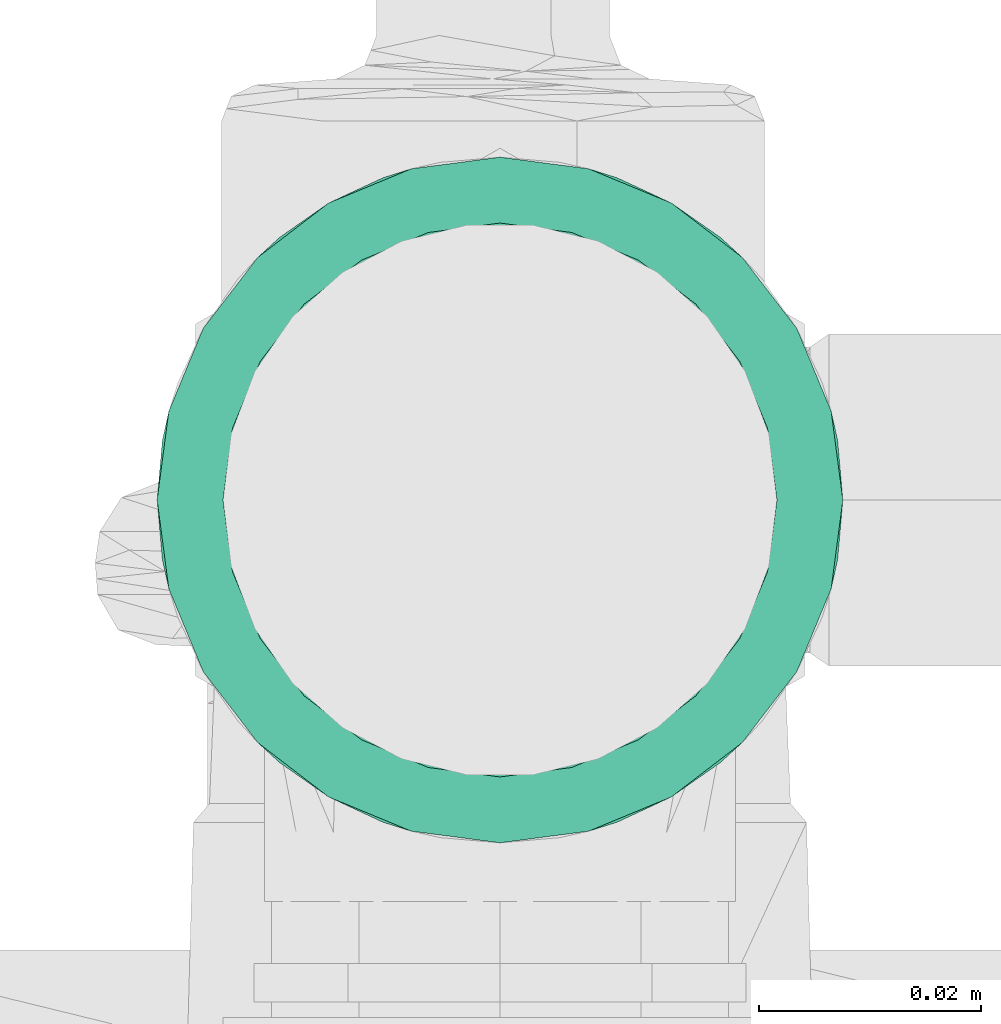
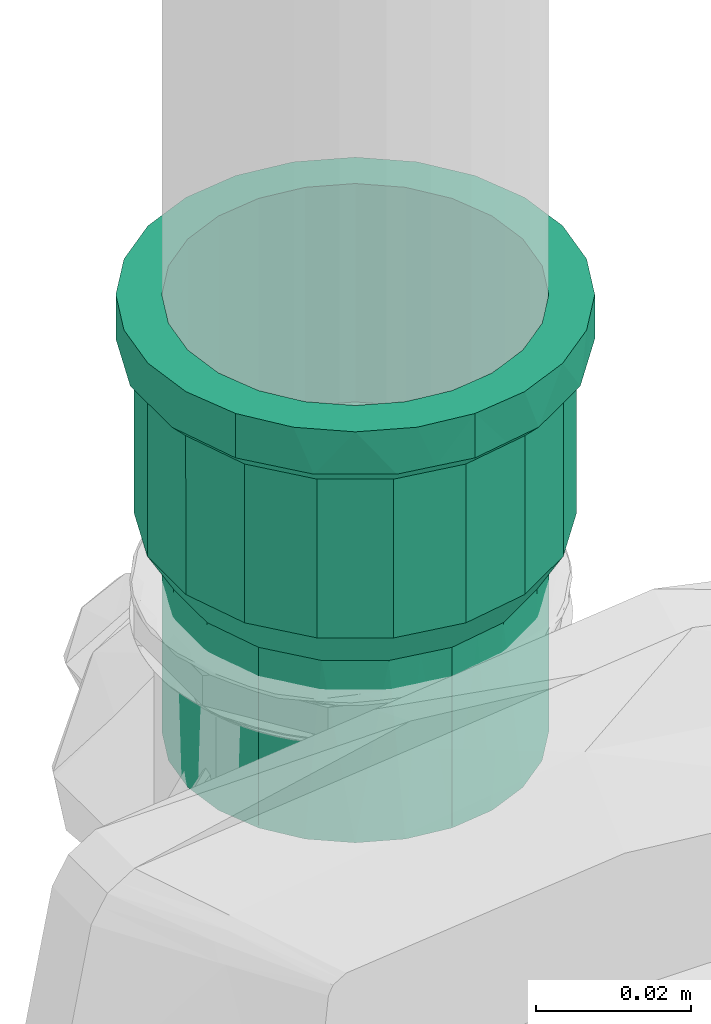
# One storey, part 153 of 589: 1 flow fitting.
"""IFC2X3 building model written with IfcOpenShell, lengths in millimetres."""

from ifc_helpers import new_model, entity, si_unit, converted_unit, derived_unit, direction, frame, origin, place, context, subcontext, project, spatial, faceted_brep, source, transform, mapped, material, type_object, type_shapes, element, save


model = new_model("IFC2X3")

# Units and contexts
model_context = context("Model", 3, precision=0.01, world=origin(), true_north=direction((6.123031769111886e-17, 1.0)))
body_context = subcontext(model_context, "Body", "Model", "MODEL_VIEW")
ifc_project = project(units=[si_unit("LENGTHUNIT", "METRE", prefix="MILLI"), si_unit("AREAUNIT", "SQUARE_METRE"), si_unit("VOLUMEUNIT", "CUBIC_METRE"), converted_unit("PLANEANGLEUNIT", "DEGREE", entity("IfcRatioMeasure", 0.017453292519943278), si_unit("PLANEANGLEUNIT", "RADIAN"), dimensions=[0, 0, 0, 0, 0, 0, 0]), si_unit("MASSUNIT", "GRAM", prefix="KILO"), derived_unit("MASSDENSITYUNIT", [(si_unit("MASSUNIT", "GRAM", prefix="KILO"), 1), (si_unit("LENGTHUNIT", "METRE"), -3)]), derived_unit("IONCONCENTRATIONUNIT", [(si_unit("MASSUNIT", "GRAM", prefix="KILO"), 1), (si_unit("LENGTHUNIT", "METRE"), -3)]), derived_unit("MOMENTOFINERTIAUNIT", [(si_unit("LENGTHUNIT", "METRE"), 4)]), si_unit("TIMEUNIT", "SECOND"), si_unit("FREQUENCYUNIT", "HERTZ"), si_unit("THERMODYNAMICTEMPERATUREUNIT", "DEGREE_CELSIUS"), derived_unit("THERMALTRANSMITTANCEUNIT", [(si_unit("MASSUNIT", "GRAM", prefix="KILO"), 1), (si_unit("THERMODYNAMICTEMPERATUREUNIT", "KELVIN"), -1), (si_unit("TIMEUNIT", "SECOND"), -3)]), derived_unit("THERMALCONDUCTANCEUNIT", [(si_unit("MASSUNIT", "GRAM", prefix="KILO"), 1), (si_unit("THERMODYNAMICTEMPERATUREUNIT", "KELVIN"), -1), (si_unit("TIMEUNIT", "SECOND"), -3), (si_unit("LENGTHUNIT", "METRE"), 1)]), derived_unit("VOLUMETRICFLOWRATEUNIT", [(si_unit("LENGTHUNIT", "METRE"), 3), (si_unit("TIMEUNIT", "SECOND"), -1)]), derived_unit("MASSFLOWRATEUNIT", [(si_unit("MASSUNIT", "GRAM", prefix="KILO"), 1), (si_unit("TIMEUNIT", "SECOND"), -1)]), derived_unit("ROTATIONALFREQUENCYUNIT", [(si_unit("TIMEUNIT", "SECOND"), -1)]), si_unit("ELECTRICCURRENTUNIT", "AMPERE"), si_unit("ELECTRICVOLTAGEUNIT", "VOLT"), si_unit("POWERUNIT", "WATT"), si_unit("FORCEUNIT", "NEWTON", prefix="KILO"), si_unit("ILLUMINANCEUNIT", "LUX"), si_unit("LUMINOUSFLUXUNIT", "LUMEN"), si_unit("LUMINOUSINTENSITYUNIT", "CANDELA"), derived_unit("USERDEFINED", [(si_unit("MASSUNIT", "GRAM", prefix="KILO"), -1), (si_unit("LENGTHUNIT", "METRE"), -2), (si_unit("TIMEUNIT", "SECOND"), 3), (si_unit("LUMINOUSFLUXUNIT", "LUMEN"), 1)]), derived_unit("USERDEFINED", [(si_unit("MASSUNIT", "GRAM", prefix="KILO"), 1), (si_unit("TIMEUNIT", "SECOND"), -3), (si_unit("LENGTHUNIT", "METRE"), 3), (si_unit("ELECTRICCURRENTUNIT", "AMPERE"), -2)]), derived_unit("SOUNDPOWERUNIT", [(si_unit("MASSUNIT", "GRAM", prefix="KILO"), 1), (si_unit("TIMEUNIT", "SECOND"), -3), (si_unit("LENGTHUNIT", "METRE"), 2)]), derived_unit("SOUNDPRESSUREUNIT", [(si_unit("MASSUNIT", "GRAM", prefix="KILO"), 1), (si_unit("LENGTHUNIT", "METRE"), -1), (si_unit("TIMEUNIT", "SECOND"), -2)]), derived_unit("LINEARVELOCITYUNIT", [(si_unit("LENGTHUNIT", "METRE"), 1), (si_unit("TIMEUNIT", "SECOND"), -1)]), si_unit("PRESSUREUNIT", "PASCAL"), derived_unit("USERDEFINED", [(si_unit("MASSUNIT", "GRAM", prefix="KILO"), 1), (si_unit("LENGTHUNIT", "METRE"), -2), (si_unit("TIMEUNIT", "SECOND"), -2)]), derived_unit("LINEARFORCEUNIT", [(si_unit("MASSUNIT", "GRAM", prefix="KILO"), 1), (si_unit("TIMEUNIT", "SECOND"), -2)]), derived_unit("PLANARFORCEUNIT", [(si_unit("MASSUNIT", "GRAM", prefix="KILO"), 1), (si_unit("LENGTHUNIT", "METRE"), -1), (si_unit("TIMEUNIT", "SECOND"), -2)]), derived_unit("SPECIFICHEATCAPACITYUNIT", [(si_unit("THERMODYNAMICTEMPERATUREUNIT", "KELVIN"), -1), (si_unit("LENGTHUNIT", "METRE"), 2), (si_unit("TIMEUNIT", "SECOND"), -2)]), derived_unit("HEATINGVALUEUNIT", [(si_unit("LENGTHUNIT", "METRE"), 2), (si_unit("TIMEUNIT", "SECOND"), -2)]), derived_unit("VAPORPERMEABILITYUNIT", [(si_unit("LENGTHUNIT", "METRE"), -1), (si_unit("TIMEUNIT", "SECOND"), 1)]), derived_unit("DYNAMICVISCOSITYUNIT", [(si_unit("MASSUNIT", "GRAM", prefix="KILO"), 1), (si_unit("TIMEUNIT", "SECOND"), -1), (si_unit("LENGTHUNIT", "METRE"), -1)]), derived_unit("THERMALEXPANSIONCOEFFICIENTUNIT", [(si_unit("THERMODYNAMICTEMPERATUREUNIT", "KELVIN"), -1)]), derived_unit("MODULUSOFELASTICITYUNIT", [(si_unit("MASSUNIT", "GRAM", prefix="KILO"), 1), (si_unit("LENGTHUNIT", "METRE"), -1), (si_unit("TIMEUNIT", "SECOND"), -2)]), derived_unit("ISOTHERMALMOISTURECAPACITYUNIT", [(si_unit("LENGTHUNIT", "METRE"), 3), (si_unit("MASSUNIT", "GRAM", prefix="KILO"), -1)]), derived_unit("MOISTUREDIFFUSIVITYUNIT", [(si_unit("TIMEUNIT", "SECOND"), -1), (si_unit("LENGTHUNIT", "METRE"), 2)])], contexts=[model_context])

# Site, building, storey
site_placement = place(None, origin())
site = spatial("IfcSite", under=ifc_project, at=site_placement, Name="Default", CompositionType="ELEMENT")
building_placement = place(site_placement, origin())
building = spatial("IfcBuilding", under=site, at=building_placement, CompositionType="ELEMENT")
storey_placement = place(building_placement, frame((0.0, 0.0, 100.0)))
storey = spatial("IfcBuildingStorey", under=building, at=storey_placement, Name="TÉRREO", CompositionType="ELEMENT", Elevation=100.0)

# Flow fitting
ifc_material = material(Name="PVC Marrom")
pipe_fitting_type = type_object("IfcPipeFittingType", Name="PVC Marrom Soldável_Adaptador Curto com Bolsa e Rosca Aninhado_Rodrigo MEP:Adaptador", PredefinedType="NOTDEFINED", material=ifc_material)
shared_shape = source(origin(), body_context, "Body", "Brep", [
    faceted_brep([(0.0, 12.499999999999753, -21.65063509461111), (0.0, 21.884954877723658, -21.88495487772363), (0.0, 15.475000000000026, -26.803486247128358), (0.0, 17.677669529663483, -17.6776695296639), (0.0, 6.470476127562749, -24.14814565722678), (0.0, 26.803486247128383, -15.474999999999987), (0.0, 21.650635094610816, -12.500000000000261), (0.0, 24.148145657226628, -6.470476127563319), (0.0, 29.895404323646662, -8.01044944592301), (0.0, 25.0, 0.0), (0.0, 30.95, 0.0), (0.0, 24.14814565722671, 6.470476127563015), (0.0, 29.895404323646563, 8.010449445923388), (0.0, 21.65063509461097, 12.499999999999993), (0.0, 26.80348624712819, 15.475000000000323), (0.0, 17.6776695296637, 17.677669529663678), (0.0, 21.884954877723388, 21.884954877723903), (0.0, 12.500000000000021, 21.65063509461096), (0.0, 15.474999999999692, 26.803486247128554), (0.0, 6.4704761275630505, 24.1481456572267), (0.0, 8.010449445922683, 29.89540432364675), (0.0, 0.0, 25.0), (0.0, 0.0, 30.95), (0.0, -6.4704761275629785, 24.14814565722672), (0.0, -8.010449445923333, 29.895404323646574), (0.0, -12.49999999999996, 21.650635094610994), (0.0, -15.475000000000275, 26.803486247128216), (0.0, -17.677669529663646, 17.67766952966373), (0.0, -21.884954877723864, 21.884954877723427), (0.0, -21.65063509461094, 12.500000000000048), (0.0, -26.803486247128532, 15.474999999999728), (0.0, -29.89540432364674, 8.010449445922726), (0.0, -24.14814565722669, 6.4704761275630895), (0.0, -30.95, 0.0), (0.0, -25.0, 0.0), (0.0, -29.895404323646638, -8.010449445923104), (0.0, -24.148145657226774, -6.470476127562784), (0.0, -26.803486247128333, -15.475000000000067), (0.0, -21.6506350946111, -12.499999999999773), (0.0, -21.884954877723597, -21.884954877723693), (0.0, -17.677669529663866, -17.67766952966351), (0.0, -15.474999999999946, -26.803486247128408), (0.0, -12.500000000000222, -21.650635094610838), (0.0, -8.010449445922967, -29.895404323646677), (0.0, -6.470476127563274, -24.148145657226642), (0.0, 0.0, -30.95), (0.0, 0.0, -25.0), (0.0, 8.010449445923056, -29.895404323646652), (7.0, -30.016595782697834, 5.29316701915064), (7.0, -29.88065133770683, 6.064083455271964), (7.0, -29.083191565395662, 10.586334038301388), (7.0, -23.70796650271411, 19.895598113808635), (7.0, -19.590362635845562, 23.350189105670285), (7.0, -26.395579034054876, 15.24096607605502), (7.0, -5.3710129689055, 30.480398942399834), (7.0, -10.421885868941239, 28.6425895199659), (7.0, -30.95, 0.0), (7.0, -15.472758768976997, 26.804780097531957), (7.0, 10.42907040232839, 28.639974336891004), (7.0, 15.479482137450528, 26.80089798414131), (7.0, 5.37865866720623, 30.479050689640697), (7.0, 19.596219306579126, 23.345274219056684), (7.0, 23.712956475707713, 19.889650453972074), (7.0, 29.08584618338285, 10.57903832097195), (7.0, 30.95, 0.0), (7.0, 26.39940132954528, 15.234344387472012), (7.0, 0.0038228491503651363, 30.47972481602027), (7.0, 29.08584618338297, -10.579038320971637), (7.0, 23.71295647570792, -19.88965045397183), (7.0, 19.596219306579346, -23.3452742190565), (7.0, 26.39940132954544, -15.234344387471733), (7.0, 5.378658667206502, -30.47905068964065), (7.0, 10.429070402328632, -28.639974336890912), (7.0, 15.47948213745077, -26.800897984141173), (7.0, -30.0165957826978, -5.2931670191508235), (7.0, -10.421885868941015, -28.642589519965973), (7.0, -15.472758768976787, -26.804780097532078), (7.0, -5.3710129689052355, -30.480398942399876), (7.0, -19.590362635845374, -23.350189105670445), (7.0, -23.707966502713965, -19.895598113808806), (7.0, -29.083191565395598, -10.58633403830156), (7.0, -29.88065131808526, -6.064083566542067), (7.0, -26.395579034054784, -15.240966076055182), (7.0, 0.003822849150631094, -30.479724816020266), (9.400000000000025, -26.87493630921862, 9.782525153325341), (9.400000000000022, -27.737468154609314, 4.891262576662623), (34.4499999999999, -26.875116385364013, 9.782030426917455), (9.40000000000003, -18.102887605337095, 21.577234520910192), (34.4499999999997, -14.299296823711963, 24.768732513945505), (9.400000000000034, -14.297928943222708, 24.769522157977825), (9.400000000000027, -24.391391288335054, 14.083736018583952), (34.44999999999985, -24.391819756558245, 14.083085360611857), (34.4499999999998, -21.908523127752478, 18.384140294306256), (34.44999999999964, -4.965271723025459, 28.165689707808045), (9.400000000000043, -4.963197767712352, 28.16605524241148), (9.400000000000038, -9.63056335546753, 26.467788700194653), (9.400000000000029, -21.907846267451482, 18.384946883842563), (9.40000000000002, -28.600000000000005, 0.0), (34.44999999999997, -27.796398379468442, 4.557325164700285), (34.44999999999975, -18.103909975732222, 21.57643640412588), (34.44999999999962, 4.967670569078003, 28.165266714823), (9.400000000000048, 0.003532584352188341, 28.165432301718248), (34.44999999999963, 0.0011994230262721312, 28.165478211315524), (34.44999999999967, -9.632284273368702, 26.46721111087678), (9.400000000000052, 4.970262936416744, 28.164809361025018), (9.400000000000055, 9.63720237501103, 26.465372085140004), (34.449999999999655, 14.301406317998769, 24.76751455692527), (9.40000000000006, 14.304141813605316, 24.765934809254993), (34.449999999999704, 18.105747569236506, 21.574894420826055), (34.44999999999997, -27.73755819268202, 4.891015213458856), (34.449999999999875, 26.875949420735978, 9.779741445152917), (34.450000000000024, 28.600000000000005, 0.0), (9.400000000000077, 26.87738936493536, 9.77578339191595), (34.449999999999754, 21.910088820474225, 18.38227428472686), (9.40000000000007, 21.91245735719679, 18.379450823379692), (9.400000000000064, 18.108299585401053, 21.57269281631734), (34.44999999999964, 9.634538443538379, 26.46639063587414), (9.400000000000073, 24.394923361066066, 14.077617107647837), (34.450000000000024, -28.600000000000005, 0.0), (9.40000000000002, 28.600000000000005, 0.0), (34.44999999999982, 24.3930191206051, 14.081007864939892), (9.40000000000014, 26.87738936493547, -9.77578339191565), (34.45000000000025, 26.87594942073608, -9.77974144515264), (9.400000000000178, -18.10288760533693, -21.577234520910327), (34.45000000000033, -14.299296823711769, -24.76873251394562), (34.45000000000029, -18.10390997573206, -21.57643640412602), (9.400000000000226, 18.108299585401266, -21.57269281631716), (9.400000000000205, 21.912457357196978, -18.37945082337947), (34.450000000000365, 21.910088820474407, -18.38227428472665), (9.400000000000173, 24.394923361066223, -14.077617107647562), (34.45000000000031, 24.393019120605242, -14.081007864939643), (9.40000000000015, -21.907846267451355, -18.384946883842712), (34.45000000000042, 0.0011994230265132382, -28.165478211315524), (9.400000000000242, -4.963197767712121, -28.166055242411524), (9.40000000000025, 0.0035325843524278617, -28.165432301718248), (9.40000000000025, 9.637202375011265, -26.46537208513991), (9.400000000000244, 14.304141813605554, -24.765934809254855), (34.45000000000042, 14.301406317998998, -24.76751455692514), (9.400000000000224, -9.63056335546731, -26.467788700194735), (34.45000000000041, -4.965271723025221, -28.165689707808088), (34.45000000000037, -9.632284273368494, -26.467211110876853), (34.45000000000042, 9.634538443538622, -26.46639063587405), (9.400000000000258, 4.970262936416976, -28.164809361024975), (9.400000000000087, -26.874936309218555, -9.782525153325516), (9.40000000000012, -24.391391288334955, -14.083736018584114), (34.45000000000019, -24.391819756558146, -14.083085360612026), (34.450000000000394, 18.1057475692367, -21.574894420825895), (34.450000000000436, 4.967670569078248, -28.16526671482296), (34.45000000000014, -26.875116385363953, -9.782030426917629), (34.45000000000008, -27.796398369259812, -4.557325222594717), (9.400000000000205, -14.297928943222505, -24.769522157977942), (9.400000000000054, -27.737468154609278, -4.891262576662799), (34.450000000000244, -21.908523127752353, -18.38414029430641), (34.45000000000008, -27.737558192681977, -4.891015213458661), (69.0, 6.4704761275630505, -24.1481456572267), (69.0, 12.500000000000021, -21.65063509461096), (69.0, 17.6776695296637, -17.677669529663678), (69.0, 21.650635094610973, -12.499999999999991), (69.0, 24.14814565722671, -6.470476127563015), (69.0, 25.0, 0.0), (69.0, 24.148145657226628, 6.470476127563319), (69.0, 21.650635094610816, 12.500000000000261), (69.0, 17.677669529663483, 17.6776695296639), (69.0, 12.499999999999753, 21.65063509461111), (69.0, 6.470476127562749, 24.14814565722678), (69.0, 0.0, 25.0), (69.0, -6.470476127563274, 24.148145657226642), (69.0, -12.500000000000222, 21.650635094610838), (69.0, -17.67766952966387, 17.677669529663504), (69.0, -21.650635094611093, 12.499999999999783), (69.0, -24.148145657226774, 6.470476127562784), (69.0, -25.0, 0.0), (69.0, -24.14814565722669, -6.4704761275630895), (69.0, -21.650635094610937, -12.500000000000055), (69.0, -17.677669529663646, -17.67766952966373), (69.0, -12.49999999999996, -21.650635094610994), (69.0, -6.4704761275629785, -24.14814565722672), (69.0, 0.0, -25.0), (40.499999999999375, -8.41832461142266, 23.136178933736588), (40.49999999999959, -19.1502152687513, 16.070757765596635), (40.49999999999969, -21.321146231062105, 12.310958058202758), (40.49999999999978, -23.492077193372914, 8.551158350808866), (40.49999999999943, -12.498189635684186, 21.651680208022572), (40.49999999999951, -15.824202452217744, 18.861218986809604), (40.49999999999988, -24.246038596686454, 4.2755791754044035), (40.49999999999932, -4.3384595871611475, 24.620677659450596), (40.499999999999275, 4.344635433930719, 24.61958860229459), (40.499999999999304, 0.003087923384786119, 24.620133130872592), (40.49999999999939, 15.828933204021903, 18.85724896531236), (40.49999999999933, 12.503620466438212, 21.648544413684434), (40.49999999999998, -25.0, 0.0), (40.49999999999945, 19.154245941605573, 16.065953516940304), (40.49999999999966, 23.494221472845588, 8.545265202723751), (40.499999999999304, 8.424127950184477, 23.13406650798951), (40.49999999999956, 21.324233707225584, 12.305609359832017), (40.49999999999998, 25.0, 0.0), (40.500000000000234, 19.15424594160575, -16.065953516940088), (40.500000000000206, -15.824202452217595, -18.861218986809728), (40.50000000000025, -12.498189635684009, -21.65168020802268), (40.500000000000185, 21.32423370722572, -12.305609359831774), (40.50000000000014, 23.494221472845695, -8.545265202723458), (40.5000000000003, 12.503620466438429, -21.64854441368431), (40.50000000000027, 15.82893320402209, -18.8572489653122), (40.50000000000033, 4.344635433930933, -24.619588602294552), (40.50000000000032, 8.42412795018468, -23.13406650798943), (40.5000000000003, -4.3384595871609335, -24.62067765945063), (40.50000000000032, 0.00308792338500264, -24.620133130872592), (40.50000000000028, -8.41832461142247, -23.136178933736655), (40.50000000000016, -19.150215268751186, -16.070757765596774), (40.50000000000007, -23.49207719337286, -8.551158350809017), (40.500000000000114, -21.321146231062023, -12.31095805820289), (40.50000000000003, -24.246038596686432, -4.275579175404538), (9.40000000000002, -25.0, 0.0), (34.450000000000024, -25.0, 0.0), (34.450000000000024, -24.14814565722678, -6.470476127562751), (9.40000000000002, -24.14814565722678, -6.470476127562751), (7.0, -24.14814565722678, -6.470476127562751), (7.0, -25.0, 0.0), (34.450000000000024, -21.650635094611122, -12.499999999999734), (9.40000000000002, -21.650635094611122, -12.499999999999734), (7.0, -21.650635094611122, -12.499999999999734), (9.40000000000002, -12.500000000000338, -21.65063509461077), (7.0, -12.500000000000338, -21.65063509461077), (7.0, -17.677669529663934, -17.677669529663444), (9.40000000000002, -17.677669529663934, -17.677669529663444), (34.450000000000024, -17.677669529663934, -17.677669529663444), (34.450000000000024, -12.500000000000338, -21.65063509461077), (9.40000000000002, -6.470476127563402, -24.148145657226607), (7.0, -6.470476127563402, -24.148145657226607), (34.450000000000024, -6.470476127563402, -24.148145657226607), (34.450000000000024, 0.0, -25.0), (9.40000000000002, 0.0, -25.0), (7.0, 0.0, -25.0), (34.450000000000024, 6.470476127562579, -24.148145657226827), (9.40000000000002, 6.470476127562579, -24.148145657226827), (7.0, 6.470476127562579, -24.148145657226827), (34.450000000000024, 12.49999999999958, -21.65063509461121), (9.40000000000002, 12.49999999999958, -21.65063509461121), (7.0, 12.49999999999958, -21.65063509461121), (34.450000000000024, 24.148145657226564, -6.470476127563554), (34.450000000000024, 25.0, 0.0), (9.40000000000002, 25.0, 0.0), (7.0, 25.0, 0.0), (7.0, 24.14814565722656, -6.470476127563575), (9.40000000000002, 24.148145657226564, -6.470476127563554), (34.450000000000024, 17.677669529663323, -17.677669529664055), (9.40000000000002, 17.677669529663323, -17.677669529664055), (7.0, 17.677669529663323, -17.677669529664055), (34.450000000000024, 21.650635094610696, -12.500000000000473), (9.40000000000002, 21.650635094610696, -12.500000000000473), (7.0, 21.650635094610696, -12.500000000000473), (34.450000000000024, 24.148145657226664, 6.470476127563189), (9.40000000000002, 24.148145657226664, 6.470476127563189), (7.0, 24.148145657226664, 6.470476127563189), (34.450000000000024, 21.65063509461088, 12.50000000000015), (9.40000000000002, 21.65063509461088, 12.50000000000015), (7.0, 21.65063509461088, 12.50000000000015), (9.40000000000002, 12.49999999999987, 21.650635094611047), (7.0, 12.49999999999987, 21.650635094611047), (7.0, 17.677669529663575, 17.677669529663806), (9.40000000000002, 17.677669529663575, 17.677669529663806), (34.450000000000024, 17.677669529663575, 17.677669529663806), (34.450000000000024, 12.49999999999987, 21.650635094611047), (9.40000000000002, 6.470476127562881, 24.14814565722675), (7.0, 6.470476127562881, 24.14814565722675), (34.450000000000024, 6.470476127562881, 24.14814565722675), (34.450000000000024, 0.0, 25.0), (9.40000000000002, 0.0, 25.0), (7.0, 0.0, 25.0), (9.40000000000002, -17.677669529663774, 17.677669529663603), (7.0, -17.677669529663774, 17.677669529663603), (7.0, -12.50000000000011, 21.650635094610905), (9.40000000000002, -12.50000000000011, 21.650635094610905), (34.450000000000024, -12.50000000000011, 21.650635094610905), (34.450000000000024, -17.677669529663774, 17.677669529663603), (9.40000000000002, -24.14814565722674, 6.470476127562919), (7.0, -24.14814565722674, 6.470476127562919), (7.0, -21.650635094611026, 12.499999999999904), (9.40000000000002, -21.650635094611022, 12.499999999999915), (34.450000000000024, -21.650635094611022, 12.499999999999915), (34.450000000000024, -24.14814565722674, 6.470476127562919), (7.0, -6.470476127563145, 24.148145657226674), (9.40000000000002, -6.470476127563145, 24.148145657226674), (34.450000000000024, -6.470476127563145, 24.148145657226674)], [[[0, 1, 2]], [[3, 1, 0]], [[4, 0, 2]], [[1, 3, 5]], [[5, 3, 6]], [[5, 6, 7]], [[8, 5, 7]], [[9, 8, 7]], [[10, 8, 9]], [[10, 9, 11]], [[12, 10, 11]], [[12, 11, 13]], [[14, 12, 13]], [[14, 13, 15]], [[15, 16, 14]], [[15, 17, 16]], [[18, 16, 17]], [[19, 18, 17]], [[18, 19, 20]], [[21, 20, 19]], [[22, 20, 21]], [[21, 23, 22]], [[24, 22, 23]], [[25, 24, 23]], [[24, 25, 26]], [[25, 27, 26]], [[27, 28, 26]], [[28, 27, 29]], [[28, 29, 30]], [[30, 29, 31]], [[31, 29, 32]], [[33, 31, 32]], [[32, 34, 33]], [[33, 34, 35]], [[34, 36, 35]], [[37, 35, 36]], [[37, 36, 38]], [[39, 37, 38]], [[40, 39, 38]], [[40, 41, 39]], [[42, 41, 40]], [[43, 41, 42]], [[42, 44, 43]], [[43, 44, 45]], [[44, 46, 45]], [[46, 4, 47]], [[45, 46, 47]], [[2, 47, 4]], [[31, 48, 49, 50]], [[28, 51, 52]], [[51, 30, 50, 53]], [[54, 24, 55]], [[30, 31, 50]], [[56, 48, 33]], [[52, 57, 26]], [[52, 26, 28]], [[30, 51, 28]], [[58, 59, 18]], [[58, 18, 20]], [[26, 57, 55]], [[26, 55, 24]], [[22, 24, 54]], [[33, 48, 31]], [[20, 60, 58]], [[16, 61, 62]], [[12, 63, 64]], [[63, 14, 62, 65]], [[12, 64, 10]], [[18, 61, 16]], [[22, 54, 66, 60]], [[22, 60, 20]], [[14, 16, 62]], [[59, 61, 18]], [[14, 63, 12]], [[8, 64, 67]], [[1, 68, 69]], [[68, 5, 67, 70]], [[71, 47, 72]], [[5, 8, 67]], [[8, 10, 64]], [[2, 72, 47]], [[69, 73, 2]], [[5, 68, 1]], [[74, 33, 35]], [[75, 76, 41]], [[2, 73, 72]], [[75, 41, 43]], [[45, 47, 71]], [[69, 2, 1]], [[43, 77, 75]], [[39, 78, 79]], [[35, 80, 81, 74]], [[80, 37, 79, 82]], [[37, 80, 35]], [[41, 78, 39]], [[45, 71, 83, 77]], [[45, 77, 43]], [[37, 39, 79]], [[76, 78, 41]], [[74, 56, 33]], [[84, 85, 86]], [[87, 88, 89]], [[90, 91, 92]], [[93, 94, 95]], [[92, 96, 90]], [[85, 97, 98]], [[99, 87, 96]], [[91, 84, 86]], [[100, 101, 102]], [[93, 95, 103]], [[89, 103, 95]], [[84, 91, 90]], [[100, 104, 101]], [[88, 87, 99]], [[105, 106, 107]], [[108, 107, 106]], [[85, 98, 109, 86]], [[102, 94, 93]], [[110, 111, 112]], [[113, 114, 115]], [[116, 104, 100]], [[112, 117, 110]], [[113, 115, 108]], [[104, 116, 105]], [[97, 118, 98]], [[115, 107, 108]], [[119, 112, 111]], [[99, 96, 92]], [[117, 114, 120]], [[110, 117, 120]], [[103, 89, 88]], [[102, 101, 94]], [[120, 114, 113]], [[106, 105, 116]], [[121, 111, 122]], [[123, 124, 125]], [[126, 127, 128]], [[129, 122, 130]], [[125, 131, 123]], [[129, 121, 122]], [[132, 133, 134]], [[135, 136, 137]], [[138, 139, 140]], [[119, 111, 121]], [[130, 127, 129]], [[141, 142, 135]], [[143, 144, 145]], [[126, 128, 146]], [[134, 147, 132]], [[135, 137, 141]], [[132, 139, 133]], [[138, 133, 139]], [[137, 136, 146]], [[143, 145, 148]], [[147, 142, 141]], [[149, 118, 97]], [[123, 150, 124]], [[124, 150, 140]], [[148, 151, 143]], [[146, 136, 126]], [[152, 144, 131]], [[151, 148, 153, 149]], [[144, 152, 145]], [[152, 131, 125]], [[142, 147, 134]], [[149, 97, 151]], [[128, 127, 130]], [[140, 150, 138]], [[154, 155, 156, 157, 158, 159, 160, 161, 162, 163, 164, 165, 166, 167, 168, 169, 170, 171, 172, 173, 174, 175, 176, 177]], [[178, 167, 166]], [[169, 168, 179]], [[169, 179, 180, 181]], [[182, 183, 167]], [[170, 181, 184]], [[166, 185, 178]], [[179, 168, 183]], [[165, 186, 187, 185]], [[165, 185, 166]], [[167, 183, 168]], [[188, 189, 163]], [[184, 171, 170]], [[184, 190, 171]], [[161, 191, 162]], [[169, 181, 170]], [[161, 160, 192]], [[163, 193, 164]], [[161, 192, 194, 191]], [[195, 160, 159]], [[164, 193, 186]], [[186, 165, 164]], [[189, 193, 163]], [[188, 163, 162]], [[162, 191, 188]], [[160, 195, 192]], [[178, 182, 167]], [[195, 159, 158]], [[157, 156, 196]], [[197, 198, 175]], [[157, 196, 199, 200]], [[201, 202, 155]], [[200, 195, 158]], [[154, 203, 204]], [[196, 156, 202]], [[177, 205, 206, 203]], [[197, 175, 174]], [[155, 202, 156]], [[204, 201, 155]], [[175, 198, 207]], [[157, 200, 158]], [[204, 155, 154]], [[173, 208, 174]], [[173, 172, 209]], [[173, 209, 210, 208]], [[171, 190, 211]], [[205, 177, 176]], [[207, 205, 176]], [[175, 207, 176]], [[174, 208, 197]], [[211, 209, 172]], [[171, 211, 172]], [[177, 203, 154]], [[212, 213, 214, 215, 216, 36, 34, 217]], [[215, 214, 218, 219, 220, 38, 36, 216]], [[221, 222, 42, 40, 223, 224, 225, 226]], [[225, 224, 223, 40, 38, 220, 219, 218]], [[227, 228, 44, 42, 222, 221, 226, 229]], [[227, 229, 230, 231, 232, 46, 44, 228]], [[231, 230, 233, 234, 235, 4, 46, 232]], [[234, 233, 236, 237, 238, 0, 4, 235]], [[239, 240, 241, 242, 9, 7, 243, 244]], [[237, 236, 245, 246, 247, 3, 0, 238]], [[245, 248, 249, 250, 6, 3, 247, 246]], [[248, 239, 244, 243, 7, 6, 250, 249]], [[241, 240, 251, 252, 253, 11, 9, 242]], [[252, 251, 254, 255, 256, 13, 11, 253]], [[257, 258, 17, 15, 259, 260, 261, 262]], [[261, 260, 259, 15, 13, 256, 255, 254]], [[263, 264, 19, 17, 258, 257, 262, 265]], [[263, 265, 266, 267, 268, 21, 19, 264]], [[269, 270, 27, 25, 271, 272, 273, 274]], [[275, 276, 32, 29, 277, 278, 279, 280]], [[274, 279, 278, 277, 29, 27, 270, 269]], [[212, 217, 34, 32, 276, 275, 280, 213]], [[273, 272, 271, 25, 23, 281, 282, 283]], [[267, 266, 283, 282, 281, 23, 21, 268]], [[64, 119, 121, 67]], [[81, 80, 143, 151, 97, 56, 74]], [[73, 136, 135, 142, 71, 72]], [[71, 142, 134, 133, 77, 83]], [[73, 69, 68, 127, 126, 136]], [[127, 68, 70, 67, 121, 129]], [[77, 133, 138, 150, 76, 75]], [[143, 80, 82, 79, 131, 144]], [[78, 76, 150, 123, 131, 79]], [[84, 50, 49, 48, 56, 97, 85]], [[53, 50, 84, 90, 96, 51]], [[52, 51, 96, 87, 89, 57]], [[89, 95, 94, 54, 55, 57]], [[101, 104, 60, 66, 54, 94]], [[105, 107, 59, 58, 60, 104]], [[112, 119, 64, 63]], [[114, 117, 112, 63, 65, 62]], [[107, 115, 114, 62, 61, 59]], [[233, 230, 229, 226, 225, 218, 214, 213, 280, 279, 274, 273, 283, 266, 265, 262, 261, 254, 251, 240, 239, 248, 245, 236]], [[190, 109, 98, 118]], [[184, 86, 109]], [[181, 86, 184]], [[185, 93, 178]], [[103, 88, 182]], [[99, 92, 179]], [[182, 88, 183]], [[91, 86, 181]], [[103, 182, 178]], [[178, 93, 103]], [[102, 185, 187]], [[180, 92, 91]], [[187, 100, 102]], [[91, 181, 180]], [[183, 88, 99]], [[99, 179, 183]], [[187, 186, 100]], [[191, 113, 188]], [[116, 100, 186]], [[179, 92, 180]], [[93, 185, 102]], [[189, 106, 193]], [[192, 195, 111]], [[120, 113, 191]], [[192, 110, 194]], [[108, 106, 189]], [[120, 191, 194]], [[194, 110, 120]], [[109, 190, 184]], [[188, 113, 108]], [[192, 111, 110]], [[108, 189, 188]], [[193, 106, 116]], [[116, 186, 193]], [[195, 200, 111]], [[203, 141, 204]], [[201, 146, 202]], [[196, 130, 199]], [[203, 147, 141]], [[201, 137, 146]], [[205, 132, 206]], [[196, 128, 130]], [[202, 128, 196]], [[111, 200, 122]], [[199, 130, 122]], [[146, 128, 202]], [[207, 139, 205]], [[206, 147, 203]], [[204, 141, 137]], [[199, 122, 200]], [[205, 139, 132]], [[204, 137, 201]], [[198, 124, 140]], [[198, 140, 207]], [[190, 153, 211]], [[209, 145, 210]], [[190, 118, 149, 153]], [[209, 148, 145]], [[208, 125, 197]], [[208, 152, 125]], [[210, 152, 208]], [[139, 207, 140]], [[125, 124, 197]], [[210, 145, 152]], [[211, 153, 148]], [[197, 124, 198]], [[206, 132, 147]], [[211, 148, 209]]]),
])
type_shapes(pipe_fitting_type, [shared_shape])
flow_fitting_placement = place(storey_placement, frame((8798.142188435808, -7965.828664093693, 988.0809161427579), z_axis=(1.0, 0.0, 0.0), x_axis=(0.0, 0.0, -1.0)))
element("IfcFlowFitting", 1, at=flow_fitting_placement, inside=storey, type_object=pipe_fitting_type, material=ifc_material, Name="PVC Marrom Soldável_Adaptador Curto com Bolsa e Rosca Aninhado_Rodrigo MEP:Adaptador", ObjectType="PVC Marrom Soldável_Adaptador Curto com Bolsa e Rosca Aninhado_Rodrigo MEP:Adaptador", context=body_context, shape_type="MappedRepresentation", body=[
    mapped(shared_shape, transform((0.0, 0.0, 0.0), scale=1.0)),
])

save(model, "model.ifc")
